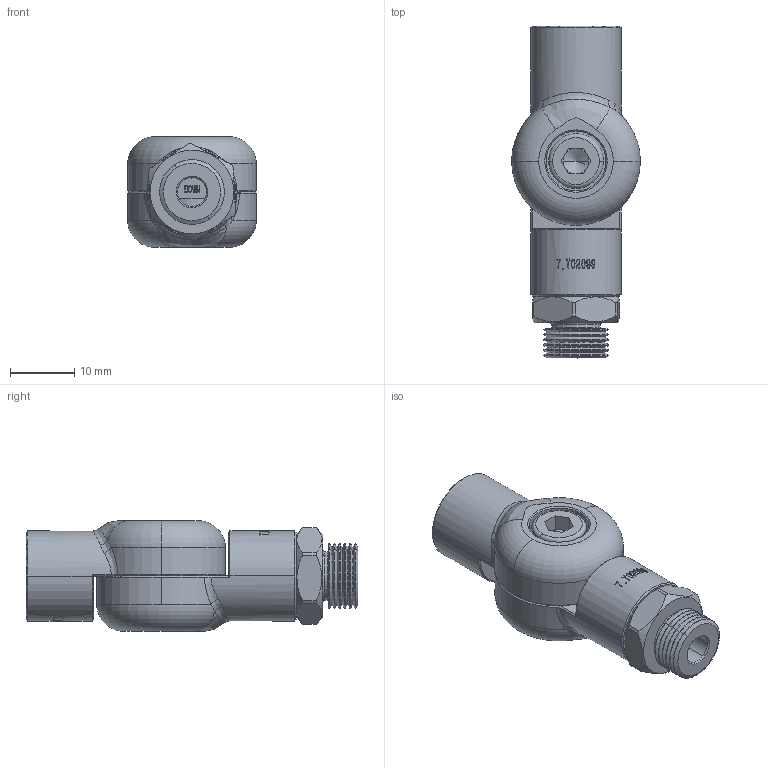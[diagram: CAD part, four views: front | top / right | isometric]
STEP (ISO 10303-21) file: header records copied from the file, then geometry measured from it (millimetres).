
FILE_DESCRIPTION (( 'STEP AP203' ), '1' );
FILE_NAME ('VM-18F18F.STEP', '2024-10-10T05:24:44', ( '' ), ( '' ), 'SwSTEP 2.0', 'SolidWorks 2022', '' );
FILE_SCHEMA (( 'CONFIG_CONTROL_DESIGN' ));
Length unit declared in the file: millimetre
Products named in the file (1): VM-18F18F
Bounding box: 20 x 51.6 x 17.2 mm (x, y, z)
Volume: 7620.2 mm3; surface area: 5321.3 mm2
Topology: 1 solids, 4 shells, 656 faces, 1703 edges, 1099 vertices
Faces by surface type: bspline 308, plane 180, cylinder 86, cone 56, torus 26
Entity records: 39142 total; most frequent: CARTESIAN_POINT 25477, ORIENTED_EDGE 3402, DIRECTION 1783, EDGE_CURVE 1701, VERTEX_POINT 1099, B_SPLINE_CURVE_WITH_KNOTS 882, EDGE_LOOP 712, FACE_OUTER_BOUND 656
